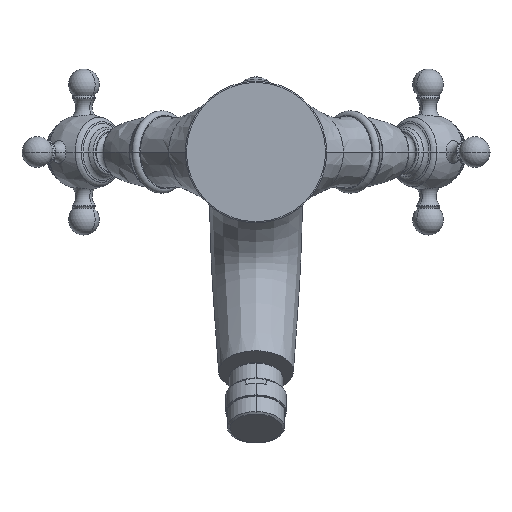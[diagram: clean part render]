
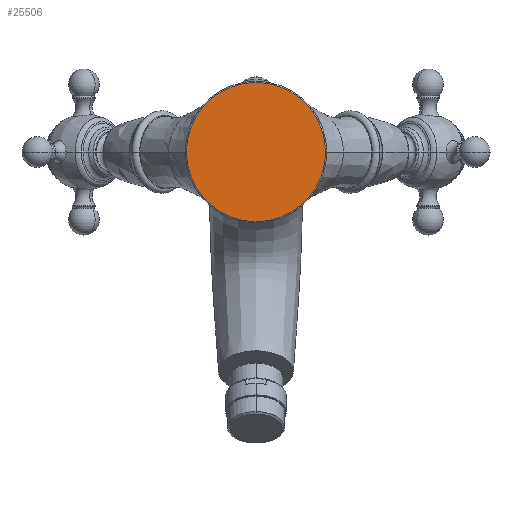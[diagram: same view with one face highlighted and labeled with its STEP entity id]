
A CAD part, front view. The second image highlights one B-rep face of the part: STEP entity #25506.
In plain terms, the highlighted planar face has unit normal (0, -1, 0).
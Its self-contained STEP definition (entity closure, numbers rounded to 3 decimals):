
#8172=CARTESIAN_POINT('',(0.,-7.5,0.));
#8173=DIRECTION('',(0.,-1.,0.));
#8174=DIRECTION('',(-1.,0.,0.));
#8175=AXIS2_PLACEMENT_3D('',#8172,#8173,#8174);
#8177=CARTESIAN_POINT('',(0.,-7.5,0.));
#8178=DIRECTION('',(0.,1.,0.));
#8179=DIRECTION('',(-1.,0.,0.));
#8180=AXIS2_PLACEMENT_3D('',#8177,#8178,#8179);
#11152=CARTESIAN_POINT('',(-29.35,-7.5,0.));
#11153=VERTEX_POINT('',#11152);
#11158=CARTESIAN_POINT('',(29.35,-7.5,0.));
#11159=VERTEX_POINT('',#11158);
#25497=CARTESIAN_POINT('',(0.,-7.5,0.));
#25498=DIRECTION('',(0.,1.,0.));
#25499=DIRECTION('',(1.,0.,0.));
#25500=AXIS2_PLACEMENT_3D('',#25497,#25498,#25499);
#25501=PLANE('',#25500);
#25502=ORIENTED_EDGE('',*,*,#25490,.F.);
#25503=ORIENTED_EDGE('',*,*,#25479,.T.);
#25504=EDGE_LOOP('',(#25502,#25503));
#25505=FACE_OUTER_BOUND('',#25504,.F.);
#25506=ADVANCED_FACE('',(#25505),#25501,.F.);
#8176=CIRCLE('',#8175,29.35);
#8181=CIRCLE('',#8180,29.35);
#25479=EDGE_CURVE('',#11153,#11159,#8181,.T.);
#25490=EDGE_CURVE('',#11153,#11159,#8176,.T.);
